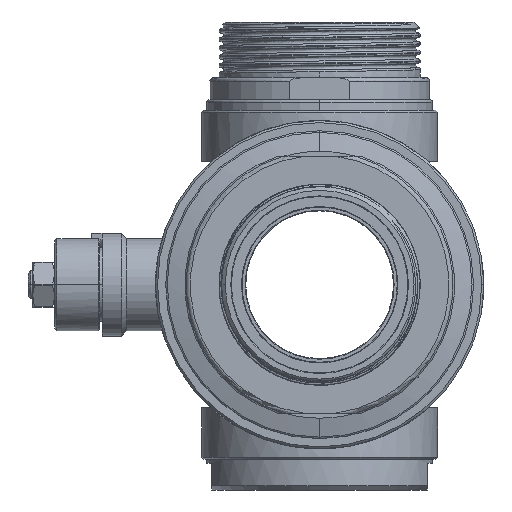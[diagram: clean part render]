
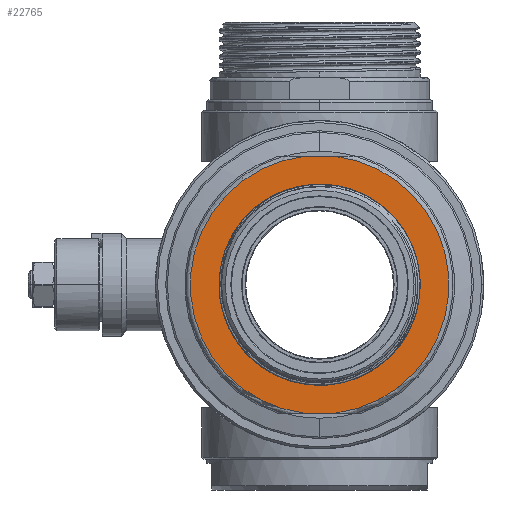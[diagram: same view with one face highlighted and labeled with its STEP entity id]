
A CAD part, left-side view. The second image highlights one B-rep face of the part: STEP entity #22765.
In plain terms, the highlighted planar face has unit normal (-1, 0, 0).
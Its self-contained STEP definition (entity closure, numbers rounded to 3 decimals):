
#19740=CARTESIAN_POINT('',(-101.,0.,0.));
#19741=DIRECTION('',(1.,0.,0.));
#19742=DIRECTION('',(0.,-1.,0.));
#19743=AXIS2_PLACEMENT_3D('',#19740,#19741,#19742);
#19748=CARTESIAN_POINT('',(-101.,0.,0.));
#19749=DIRECTION('',(1.,0.,0.));
#19750=DIRECTION('',(0.,1.,0.));
#19751=AXIS2_PLACEMENT_3D('',#19748,#19749,#19750);
#19756=CARTESIAN_POINT('',(-101.,0.,0.));
#19757=DIRECTION('',(1.,0.,0.));
#19758=DIRECTION('',(0.,0.126,-0.992));
#19759=AXIS2_PLACEMENT_3D('',#19756,#19757,#19758);
#19764=DIRECTION('',(0.,-1.,0.));
#19765=VECTOR('',#19764,15.843);
#19766=CARTESIAN_POINT('',(-101.,7.921,62.5));
#19767=LINE('',#19766,#19765);
#19771=CARTESIAN_POINT('',(-101.,0.,0.));
#19772=DIRECTION('',(1.,0.,0.));
#19773=DIRECTION('',(0.,-0.126,0.992));
#19774=AXIS2_PLACEMENT_3D('',#19771,#19772,#19773);
#19779=DIRECTION('',(0.,-1.,0.));
#19780=VECTOR('',#19779,15.843);
#19781=CARTESIAN_POINT('',(-101.,7.921,-62.5));
#19782=LINE('',#19781,#19780);
#22182=CARTESIAN_POINT('',(-101.,7.921,62.5));
#22292=CARTESIAN_POINT('',(-101.,-7.921,-62.5));
#22635=VERTEX_POINT('',#22182);
#22636=CARTESIAN_POINT('',(-101.,7.921,-62.5));
#22637=VERTEX_POINT('',#22636);
#22640=VERTEX_POINT('',#22292);
#22641=CARTESIAN_POINT('',(-101.,-7.921,62.5));
#22642=VERTEX_POINT('',#22641);
#22656=CARTESIAN_POINT('',(-101.,-49.,0.));
#22657=CARTESIAN_POINT('',(-101.,49.,0.));
#22658=VERTEX_POINT('',#22656);
#22659=VERTEX_POINT('',#22657);
#22744=CARTESIAN_POINT('',(-101.,0.,0.));
#22745=DIRECTION('',(-1.,0.,0.));
#22746=DIRECTION('',(0.,-1.,0.));
#22747=AXIS2_PLACEMENT_3D('',#22744,#22745,#22746);
#22748=PLANE('',#22747);
#22750=ORIENTED_EDGE('',*,*,#22749,.T.);
#22752=ORIENTED_EDGE('',*,*,#22751,.T.);
#22754=ORIENTED_EDGE('',*,*,#22753,.T.);
#22756=ORIENTED_EDGE('',*,*,#22755,.F.);
#22757=EDGE_LOOP('',(#22750,#22752,#22754,#22756));
#22758=FACE_OUTER_BOUND('',#22757,.F.);
#22760=ORIENTED_EDGE('',*,*,#22759,.F.);
#22762=ORIENTED_EDGE('',*,*,#22761,.F.);
#22763=EDGE_LOOP('',(#22760,#22762));
#22764=FACE_BOUND('',#22763,.F.);
#22765=ADVANCED_FACE('',(#22758,#22764),#22748,.T.);
#19744=CIRCLE('',#19743,49.);
#19752=CIRCLE('',#19751,49.);
#19760=CIRCLE('',#19759,63.);
#19775=CIRCLE('',#19774,63.);
#22749=EDGE_CURVE('',#22637,#22635,#19760,.T.);
#22751=EDGE_CURVE('',#22635,#22642,#19767,.T.);
#22753=EDGE_CURVE('',#22642,#22640,#19775,.T.);
#22755=EDGE_CURVE('',#22637,#22640,#19782,.T.);
#22759=EDGE_CURVE('',#22658,#22659,#19744,.T.);
#22761=EDGE_CURVE('',#22659,#22658,#19752,.T.);
